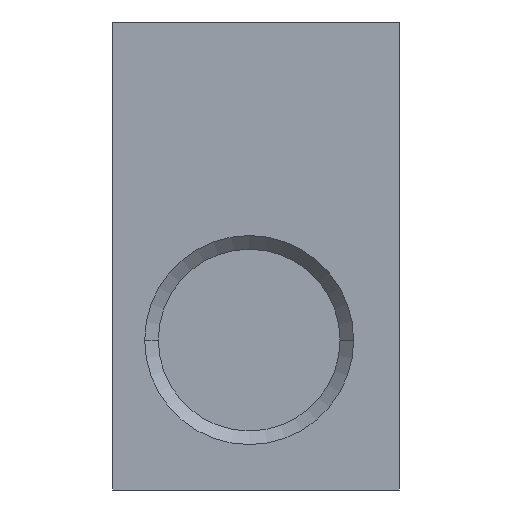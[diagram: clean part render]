
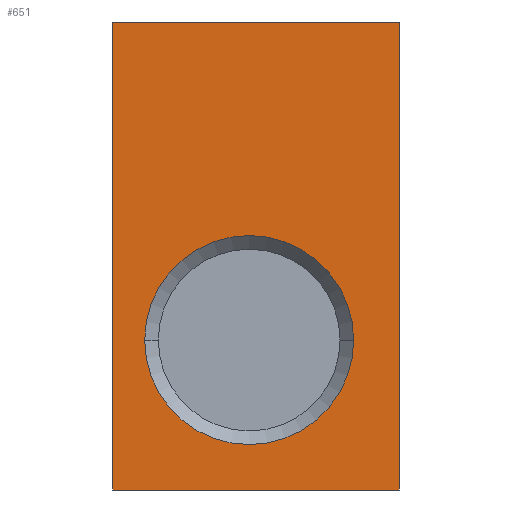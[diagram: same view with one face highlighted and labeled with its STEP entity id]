
A CAD part, front view. The second image highlights one B-rep face of the part: STEP entity #651.
In plain terms, the highlighted planar face has unit normal (0, -1, 0).
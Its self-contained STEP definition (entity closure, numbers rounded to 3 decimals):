
#123 = DIRECTION ( 'NONE',  ( 0., 1., 0. ) ) ;
#124 = CARTESIAN_POINT ( 'NONE',  ( 7., 0., -0.15 ) ) ;
#142 = DIRECTION ( 'NONE',  ( 0., 0., 1. ) ) ;
#143 = DIRECTION ( 'NONE',  ( 0., 1., 0. ) ) ;
#144 = CARTESIAN_POINT ( 'NONE',  ( 0., 0., 3.15 ) ) ;
#145 = AXIS2_PLACEMENT_3D ( 'NONE', #144, #143, #142 ) ;
#146 = DIRECTION ( 'NONE',  ( 0., 0., -1. ) ) ;
#147 = VECTOR ( 'NONE', #146, 1000. ) ;
#148 = CARTESIAN_POINT ( 'NONE',  ( 0., 0., 3.15 ) ) ;
#149 = LINE ( 'NONE', #148, #147 ) ;
#157 = FACE_BOUND ( 'NONE', #692, .T. ) ;
#158 = PLANE ( 'NONE',  #145 ) ;
#159 = FACE_OUTER_BOUND ( 'NONE', #696, .T. ) ;
#162 = DIRECTION ( 'NONE',  ( 0., 0., 1. ) ) ;
#193 = AXIS2_PLACEMENT_3D ( 'NONE', #124, #123, #162 ) ;
#194 = CIRCLE ( 'NONE', #193, 2.3 ) ;
#197 = DIRECTION ( 'NONE',  ( 1., 0., 0. ) ) ;
#198 = VECTOR ( 'NONE', #197, 1000. ) ;
#199 = CARTESIAN_POINT ( 'NONE',  ( 0., 0., 3.15 ) ) ;
#204 = LINE ( 'NONE', #199, #198 ) ;
#211 = CARTESIAN_POINT ( 'NONE',  ( 0., 0., 3.15 ) ) ;
#216 = DIRECTION ( 'NONE',  ( 1., 0., 0. ) ) ;
#217 = VECTOR ( 'NONE', #216, 1000. ) ;
#218 = CARTESIAN_POINT ( 'NONE',  ( 0., 0., -3.15 ) ) ;
#219 = LINE ( 'NONE', #218, #217 ) ;
#220 = CARTESIAN_POINT ( 'NONE',  ( 0., 0., -3.15 ) ) ;
#412 = CARTESIAN_POINT ( 'NONE',  ( 7., 0., -2.45 ) ) ;
#413 = DIRECTION ( 'NONE',  ( 0., 0., 1. ) ) ;
#414 = DIRECTION ( 'NONE',  ( 0., 1., 0. ) ) ;
#415 = CARTESIAN_POINT ( 'NONE',  ( 7., 0., -0.15 ) ) ;
#416 = AXIS2_PLACEMENT_3D ( 'NONE', #415, #414, #413 ) ;
#417 = CIRCLE ( 'NONE', #416, 2.3 ) ;
#418 = CARTESIAN_POINT ( 'NONE',  ( 7., 0., 2.15 ) ) ;
#441 = CARTESIAN_POINT ( 'NONE',  ( 10.3, 0., -3.15 ) ) ;
#442 = DIRECTION ( 'NONE',  ( 0., 0., -1. ) ) ;
#443 = VECTOR ( 'NONE', #442, 1000. ) ;
#444 = CARTESIAN_POINT ( 'NONE',  ( 10.3, 0., 3.15 ) ) ;
#445 = LINE ( 'NONE', #444, #443 ) ;
#446 = CARTESIAN_POINT ( 'NONE',  ( 10.3, 0., 3.15 ) ) ;
#649 = EDGE_CURVE ( 'NONE', #687, #705, #149, .T. ) ;
#651 = ADVANCED_FACE ( 'NONE', ( #157, #159 ), #158, .F. ) ;
#672 = ORIENTED_EDGE ( 'NONE', *, *, #704, .T. ) ;
#673 = ORIENTED_EDGE ( 'NONE', *, *, #841, .F. ) ;
#674 = ORIENTED_EDGE ( 'NONE', *, *, #689, .F. ) ;
#687 = VERTEX_POINT ( 'NONE', #211 ) ;
#689 = EDGE_CURVE ( 'NONE', #687, #839, #204, .T. ) ;
#692 = EDGE_LOOP ( 'NONE', ( #693, #694 ) ) ;
#693 = ORIENTED_EDGE ( 'NONE', *, *, #827, .T. ) ;
#694 = ORIENTED_EDGE ( 'NONE', *, *, #695, .T. ) ;
#695 = EDGE_CURVE ( 'NONE', #825, #828, #194, .T. ) ;
#696 = EDGE_LOOP ( 'NONE', ( #697, #672, #673, #674 ) ) ;
#697 = ORIENTED_EDGE ( 'NONE', *, *, #649, .T. ) ;
#704 = EDGE_CURVE ( 'NONE', #705, #842, #219, .T. ) ;
#705 = VERTEX_POINT ( 'NONE', #220 ) ;
#825 = VERTEX_POINT ( 'NONE', #418 ) ;
#827 = EDGE_CURVE ( 'NONE', #828, #825, #417, .T. ) ;
#828 = VERTEX_POINT ( 'NONE', #412 ) ;
#839 = VERTEX_POINT ( 'NONE', #446 ) ;
#841 = EDGE_CURVE ( 'NONE', #839, #842, #445, .T. ) ;
#842 = VERTEX_POINT ( 'NONE', #441 ) ;
